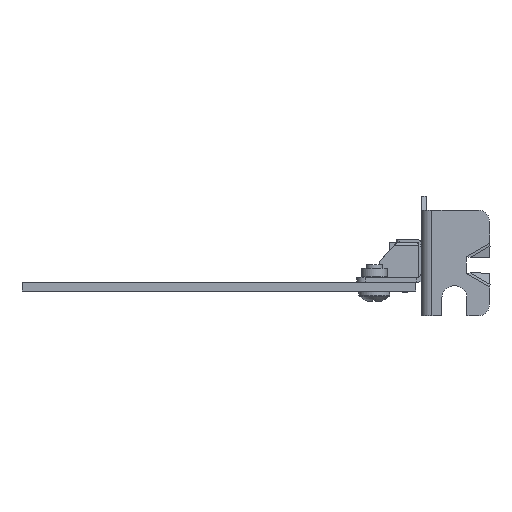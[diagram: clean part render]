
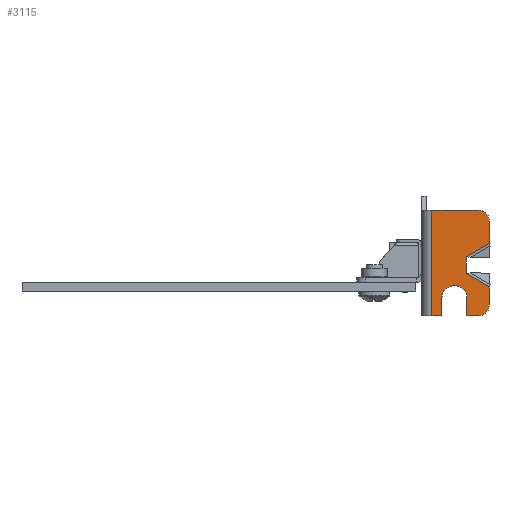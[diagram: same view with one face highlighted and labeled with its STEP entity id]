
A CAD part, front view. The second image highlights one B-rep face of the part: STEP entity #3115.
In plain terms, the highlighted planar face has unit normal (0, -1, 0).
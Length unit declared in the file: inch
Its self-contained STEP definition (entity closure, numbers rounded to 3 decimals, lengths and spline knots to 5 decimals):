
#1236=CARTESIAN_POINT('',(0.36,-3.986,0.1245));
#1238=DIRECTION('',(-0.866,0.,0.5));
#1239=VECTOR('',#1238,0.19053);
#1240=CARTESIAN_POINT('',(0.525,-3.986,0.02924));
#1241=LINE('',#1240,#1239);
#1242=DIRECTION('',(0.,0.,-1.));
#1243=VECTOR('',#1242,0.12474);
#1244=CARTESIAN_POINT('',(0.525,-3.986,0.02924));
#1245=LINE('',#1244,#1243);
#1246=DIRECTION('',(0.,0.,1.));
#1247=VECTOR('',#1246,0.125);
#1248=CARTESIAN_POINT('',(0.364,-3.986,-0.1755));
#1249=LINE('',#1248,#1247);
#1250=CARTESIAN_POINT('',(0.275,-3.986,-0.0505));
#1251=DIRECTION('',(0.,1.,0.));
#1252=DIRECTION('',(-1.,0.,0.));
#1253=AXIS2_PLACEMENT_3D('',#1250,#1251,#1252);
#1255=DIRECTION('',(0.,0.,1.));
#1256=VECTOR('',#1255,0.125);
#1257=CARTESIAN_POINT('',(0.186,-3.986,-0.1755));
#1258=LINE('',#1257,#1256);
#1259=DIRECTION('',(-1.,0.,0.));
#1260=VECTOR('',#1259,0.33);
#1261=CARTESIAN_POINT('',(0.445,-3.986,0.5745));
#1262=LINE('',#1261,#1260);
#1263=DIRECTION('',(0.,0.,-1.));
#1264=VECTOR('',#1263,0.15474);
#1265=CARTESIAN_POINT('',(0.525,-3.986,0.4945));
#1266=LINE('',#1265,#1264);
#1267=DIRECTION('',(-0.866,0.,-0.5));
#1268=VECTOR('',#1267,0.19053);
#1269=CARTESIAN_POINT('',(0.525,-3.986,0.33976));
#1270=LINE('',#1269,#1268);
#1271=DIRECTION('',(0.,0.,-1.));
#1272=VECTOR('',#1271,0.12);
#1273=CARTESIAN_POINT('',(0.36,-3.986,0.2445));
#1274=LINE('',#1273,#1272);
#1288=CARTESIAN_POINT('',(0.445,-3.986,-0.0955));
#1289=DIRECTION('',(0.,-1.,0.));
#1290=DIRECTION('',(0.,0.,-1.));
#1291=AXIS2_PLACEMENT_3D('',#1288,#1289,#1290);
#1297=DIRECTION('',(-1.,0.,0.));
#1298=VECTOR('',#1297,0.081);
#1299=CARTESIAN_POINT('',(0.445,-3.986,-0.1755));
#1300=LINE('',#1299,#1298);
#1313=DIRECTION('',(-1.,0.,0.));
#1314=VECTOR('',#1313,0.071);
#1315=CARTESIAN_POINT('',(0.186,-3.986,-0.1755));
#1316=LINE('',#1315,#1314);
#1361=DIRECTION('',(0.,0.,-1.));
#1362=VECTOR('',#1361,0.75);
#1363=CARTESIAN_POINT('',(0.115,-3.986,0.5745));
#1364=LINE('',#1363,#1362);
#2349=CARTESIAN_POINT('',(0.445,-3.986,0.4945));
#2350=DIRECTION('',(0.,-1.,0.));
#2351=DIRECTION('',(1.,0.,0.));
#2352=AXIS2_PLACEMENT_3D('',#2349,#2350,#2351);
#2372=CARTESIAN_POINT('',(0.36,-3.986,0.2445));
#2393=CARTESIAN_POINT('',(0.115,-3.986,-0.1755));
#2395=VERTEX_POINT('',#2393);
#2398=CARTESIAN_POINT('',(0.115,-3.986,0.5745));
#2400=VERTEX_POINT('',#2398);
#2454=CARTESIAN_POINT('',(0.525,-3.986,0.4945));
#2456=VERTEX_POINT('',#2454);
#2457=CARTESIAN_POINT('',(0.445,-3.986,0.5745));
#2458=VERTEX_POINT('',#2457);
#2461=CARTESIAN_POINT('',(0.525,-3.986,-0.0955));
#2463=VERTEX_POINT('',#2461);
#2467=CARTESIAN_POINT('',(0.445,-3.986,-0.1755));
#2468=VERTEX_POINT('',#2467);
#2477=CARTESIAN_POINT('',(0.364,-3.986,-0.1755));
#2478=CARTESIAN_POINT('',(0.364,-3.986,-0.0505));
#2479=VERTEX_POINT('',#2477);
#2480=VERTEX_POINT('',#2478);
#2481=CARTESIAN_POINT('',(0.186,-3.986,-0.0505));
#2482=VERTEX_POINT('',#2481);
#2483=CARTESIAN_POINT('',(0.186,-3.986,-0.1755));
#2484=VERTEX_POINT('',#2483);
#2495=CARTESIAN_POINT('',(0.525,-3.986,0.33976));
#2496=VERTEX_POINT('',#2495);
#2506=VERTEX_POINT('',#2372);
#2509=CARTESIAN_POINT('',(0.525,-3.986,0.02924));
#2510=VERTEX_POINT('',#2509);
#2519=VERTEX_POINT('',#1236);
#3084=CARTESIAN_POINT('',(0.525,-3.986,0.6745));
#3085=DIRECTION('',(0.,1.,0.));
#3086=DIRECTION('',(-1.,0.,0.));
#3087=AXIS2_PLACEMENT_3D('',#3084,#3085,#3086);
#3088=PLANE('',#3087);
#3089=ORIENTED_EDGE('',*,*,#3078,.F.);
#3090=ORIENTED_EDGE('',*,*,#2882,.T.);
#3092=ORIENTED_EDGE('',*,*,#3091,.F.);
#3094=ORIENTED_EDGE('',*,*,#3093,.T.);
#3096=ORIENTED_EDGE('',*,*,#3095,.T.);
#3098=ORIENTED_EDGE('',*,*,#3097,.F.);
#3100=ORIENTED_EDGE('',*,*,#3099,.F.);
#3102=ORIENTED_EDGE('',*,*,#3101,.T.);
#3104=ORIENTED_EDGE('',*,*,#3103,.F.);
#3106=ORIENTED_EDGE('',*,*,#3105,.F.);
#3108=ORIENTED_EDGE('',*,*,#3107,.F.);
#3109=ORIENTED_EDGE('',*,*,#2865,.T.);
#3111=ORIENTED_EDGE('',*,*,#3110,.T.);
#3112=ORIENTED_EDGE('',*,*,#3005,.T.);
#3113=EDGE_LOOP('',(#3089,#3090,#3092,#3094,#3096,#3098,#3100,#3102,#3104,#3106,
#3108,#3109,#3111,#3112));
#3114=FACE_OUTER_BOUND('',#3113,.F.);
#3115=ADVANCED_FACE('',(#3114),#3088,.F.);
#1254=CIRCLE('',#1253,0.089);
#1292=CIRCLE('',#1291,0.08);
#2353=CIRCLE('',#2352,0.08);
#2865=EDGE_CURVE('',#2456,#2496,#1266,.T.);
#2882=EDGE_CURVE('',#2510,#2463,#1245,.T.);
#3005=EDGE_CURVE('',#2506,#2519,#1274,.T.);
#3078=EDGE_CURVE('',#2510,#2519,#1241,.T.);
#3091=EDGE_CURVE('',#2468,#2463,#1292,.T.);
#3093=EDGE_CURVE('',#2468,#2479,#1300,.T.);
#3095=EDGE_CURVE('',#2479,#2480,#1249,.T.);
#3097=EDGE_CURVE('',#2482,#2480,#1254,.T.);
#3099=EDGE_CURVE('',#2484,#2482,#1258,.T.);
#3101=EDGE_CURVE('',#2484,#2395,#1316,.T.);
#3103=EDGE_CURVE('',#2400,#2395,#1364,.T.);
#3105=EDGE_CURVE('',#2458,#2400,#1262,.T.);
#3107=EDGE_CURVE('',#2456,#2458,#2353,.T.);
#3110=EDGE_CURVE('',#2496,#2506,#1270,.T.);
